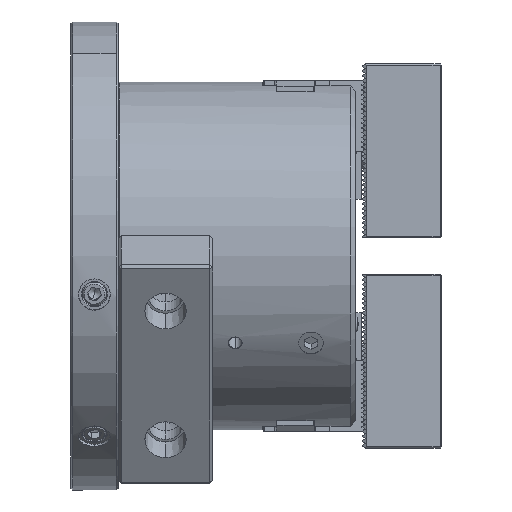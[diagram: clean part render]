
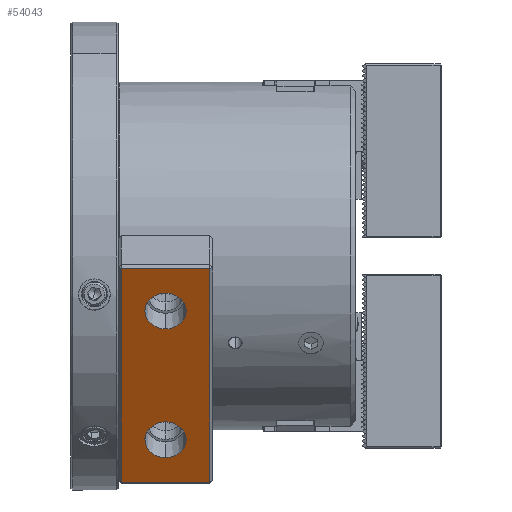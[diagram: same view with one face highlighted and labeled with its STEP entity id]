
A CAD part, front view. The second image highlights one B-rep face of the part: STEP entity #54043.
In plain terms, the highlighted planar face has unit normal (0, -0.866, -0.5).
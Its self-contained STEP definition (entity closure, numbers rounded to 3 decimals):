
#227 = CARTESIAN_POINT ( 'NONE',  ( -60., -53.635, -58.102 ) ) ;
#1556 = EDGE_CURVE ( 'NONE', #43078, #12332, #43208, .T. ) ;
#2449 = VERTEX_POINT ( 'NONE', #11126 ) ;
#2949 = ORIENTED_EDGE ( 'NONE', *, *, #22264, .T. ) ;
#2959 = PLANE ( 'NONE',  #14294 ) ;
#3048 = DIRECTION ( 'NONE',  ( 0., -0.866, -0.5 ) ) ;
#3997 = VERTEX_POINT ( 'NONE', #53490 ) ;
#4588 = DIRECTION ( 'NONE',  ( 0., -0.5, 0.866 ) ) ;
#4913 = DIRECTION ( 'NONE',  ( 0., -0.866, -0.5 ) ) ;
#5126 = EDGE_LOOP ( 'NONE', ( #42482, #35590 ) ) ;
#5872 = FACE_BOUND ( 'NONE', #36414, .T. ) ;
#10220 = CARTESIAN_POINT ( 'NONE',  ( -45., -84.885, -3.975 ) ) ;
#10859 = ORIENTED_EDGE ( 'NONE', *, *, #51087, .F. ) ;
#11126 = CARTESIAN_POINT ( 'NONE',  ( -46., -45.885, -71.525 ) ) ;
#11854 = CARTESIAN_POINT ( 'NONE',  ( -60., -77.135, -17.398 ) ) ;
#12332 = VERTEX_POINT ( 'NONE', #58164 ) ;
#13464 = EDGE_CURVE ( 'NONE', #18623, #23924, #43259, .T. ) ;
#14294 = AXIS2_PLACEMENT_3D ( 'NONE', #53763, #49725, #26422 ) ;
#14559 = CARTESIAN_POINT ( 'NONE',  ( -46., -84.885, -3.975 ) ) ;
#17230 = CARTESIAN_POINT ( 'NONE',  ( -60., -53.635, -58.102 ) ) ;
#17392 = CARTESIAN_POINT ( 'NONE',  ( -74., -84.885, -3.975 ) ) ;
#18005 = ORIENTED_EDGE ( 'NONE', *, *, #13464, .T. ) ;
#18205 = FACE_OUTER_BOUND ( 'NONE', #26165, .T. ) ;
#18623 = VERTEX_POINT ( 'NONE', #17392 ) ;
#21265 = VERTEX_POINT ( 'NONE', #55307 ) ;
#21502 = CARTESIAN_POINT ( 'NONE',  ( -60., -80.399, -11.745 ) ) ;
#22264 = EDGE_CURVE ( 'NONE', #2449, #33487, #41203, .T. ) ;
#22409 = CIRCLE ( 'NONE', #51667, 6.529 ) ;
#23924 = VERTEX_POINT ( 'NONE', #35260 ) ;
#24487 = VECTOR ( 'NONE', #54371, 1000. ) ;
#25713 = VECTOR ( 'NONE', #41922, 1000. ) ;
#25788 = DIRECTION ( 'NONE',  ( 0., 0.866, 0.5 ) ) ;
#26165 = EDGE_LOOP ( 'NONE', ( #2949, #10859, #18005, #45968 ) ) ;
#26422 = DIRECTION ( 'NONE',  ( 1., 0., 0. ) ) ;
#26510 = EDGE_CURVE ( 'NONE', #3997, #21265, #49970, .T. ) ;
#26898 = ORIENTED_EDGE ( 'NONE', *, *, #54945, .T. ) ;
#28408 = LINE ( 'NONE', #29498, #51389 ) ;
#28603 = LINE ( 'NONE', #10220, #25713 ) ;
#29498 = CARTESIAN_POINT ( 'NONE',  ( -45., -45.885, -71.525 ) ) ;
#30027 = DIRECTION ( 'NONE',  ( 0., -0.5, 0.866 ) ) ;
#31624 = DIRECTION ( 'NONE',  ( 0., 0.866, 0.5 ) ) ;
#33487 = VERTEX_POINT ( 'NONE', #14559 ) ;
#34130 = DIRECTION ( 'NONE',  ( 1., 0., 0. ) ) ;
#35260 = CARTESIAN_POINT ( 'NONE',  ( -74., -45.885, -71.525 ) ) ;
#35590 = ORIENTED_EDGE ( 'NONE', *, *, #42836, .F. ) ;
#36414 = EDGE_LOOP ( 'NONE', ( #56590, #26898 ) ) ;
#38674 = AXIS2_PLACEMENT_3D ( 'NONE', #17230, #3048, #44609 ) ;
#41152 = CIRCLE ( 'NONE', #44824, 6.529 ) ;
#41203 = LINE ( 'NONE', #50541, #51948 ) ;
#41922 = DIRECTION ( 'NONE',  ( 1., 0., 0. ) ) ;
#42482 = ORIENTED_EDGE ( 'NONE', *, *, #26510, .F. ) ;
#42836 = EDGE_CURVE ( 'NONE', #21265, #3997, #22409, .T. ) ;
#43078 = VERTEX_POINT ( 'NONE', #21502 ) ;
#43208 = CIRCLE ( 'NONE', #44989, 6.529 ) ;
#43259 = LINE ( 'NONE', #45137, #24487 ) ;
#44609 = DIRECTION ( 'NONE',  ( 0., 0.5, -0.866 ) ) ;
#44824 = AXIS2_PLACEMENT_3D ( 'NONE', #11854, #25788, #30027 ) ;
#44989 = AXIS2_PLACEMENT_3D ( 'NONE', #59176, #31624, #45307 ) ;
#45137 = CARTESIAN_POINT ( 'NONE',  ( -74., -45.385, -72.391 ) ) ;
#45307 = DIRECTION ( 'NONE',  ( 0., -0.5, 0.866 ) ) ;
#45968 = ORIENTED_EDGE ( 'NONE', *, *, #49108, .T. ) ;
#49108 = EDGE_CURVE ( 'NONE', #23924, #2449, #28408, .T. ) ;
#49725 = DIRECTION ( 'NONE',  ( 0., -0.866, -0.5 ) ) ;
#49970 = CIRCLE ( 'NONE', #38674, 6.529 ) ;
#50541 = CARTESIAN_POINT ( 'NONE',  ( -46., -45.385, -72.391 ) ) ;
#51087 = EDGE_CURVE ( 'NONE', #18623, #33487, #28603, .T. ) ;
#51389 = VECTOR ( 'NONE', #34130, 1000. ) ;
#51667 = AXIS2_PLACEMENT_3D ( 'NONE', #227, #4913, #55714 ) ;
#51948 = VECTOR ( 'NONE', #4588, 1000. ) ;
#53490 = CARTESIAN_POINT ( 'NONE',  ( -60., -50.371, -63.755 ) ) ;
#53763 = CARTESIAN_POINT ( 'NONE',  ( -45., -45.385, -72.391 ) ) ;
#54043 = ADVANCED_FACE ( 'NONE', ( #59265, #18205, #5872 ), #2959, .T. ) ;
#54371 = DIRECTION ( 'NONE',  ( 0., 0.5, -0.866 ) ) ;
#54945 = EDGE_CURVE ( 'NONE', #12332, #43078, #41152, .T. ) ;
#55307 = CARTESIAN_POINT ( 'NONE',  ( -60., -56.899, -52.448 ) ) ;
#55714 = DIRECTION ( 'NONE',  ( 0., 0.5, -0.866 ) ) ;
#56590 = ORIENTED_EDGE ( 'NONE', *, *, #1556, .T. ) ;
#58164 = CARTESIAN_POINT ( 'NONE',  ( -60., -73.871, -23.052 ) ) ;
#59176 = CARTESIAN_POINT ( 'NONE',  ( -60., -77.135, -17.398 ) ) ;
#59265 = FACE_BOUND ( 'NONE', #5126, .T. ) ;
